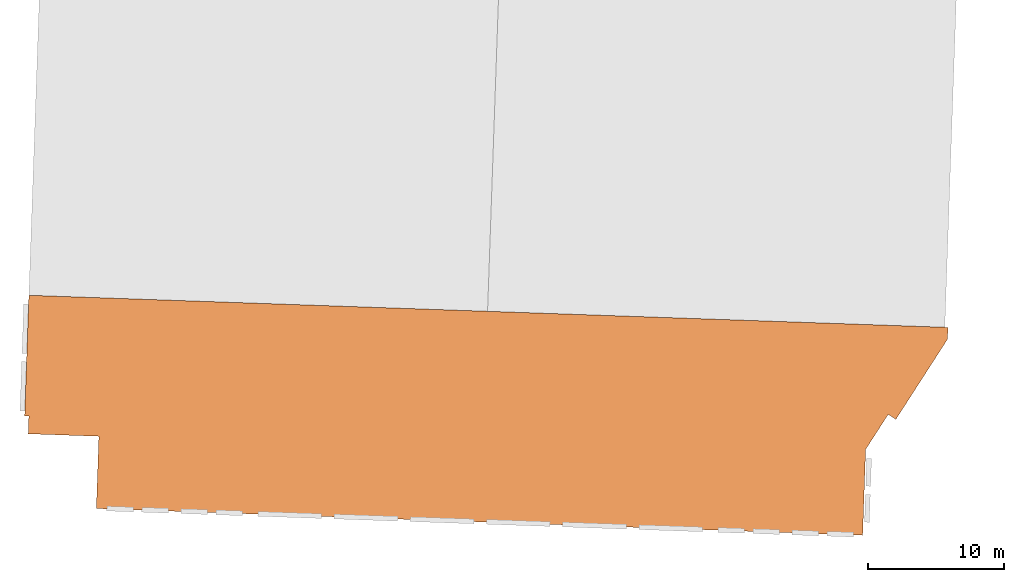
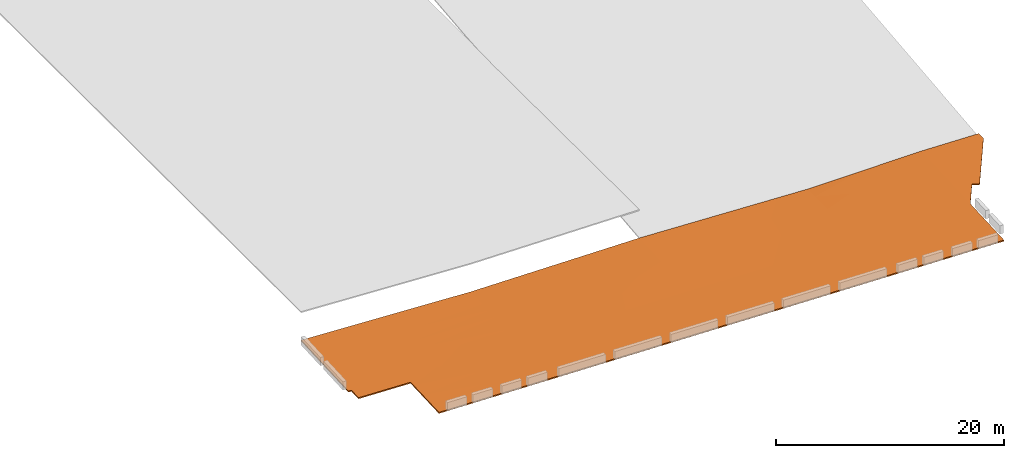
# One storey, part 6 of 7: 1 proxy.
"""IFC2X3 building model written with IfcOpenShell, lengths in feet."""

from ifc_helpers import new_model, entity, si_unit, converted_unit, derived_unit, direction, frame, origin, place, context, subcontext, project, spatial, faceted_brep, source, transform, mapped, material, type_object, type_shapes, element, save


model = new_model("IFC2X3")

# Units and contexts
model_context = context("Model", 3, precision=0.0001, world=origin(), true_north=direction((0.999390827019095, 0.0348994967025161)))
body_context = subcontext(model_context, "Body", "Model", "MODEL_VIEW")
ifc_project = project(units=[converted_unit("LENGTHUNIT", "FOOT", entity("IfcRatioMeasure", 0.3048), si_unit("LENGTHUNIT", "METRE"), dimensions=[1, 0, 0, 0, 0, 0, 0]), converted_unit("AREAUNIT", "SQUARE FOOT", entity("IfcRatioMeasure", 0.09290304), si_unit("AREAUNIT", "SQUARE_METRE"), dimensions=[2, 0, 0, 0, 0, 0, 0]), converted_unit("VOLUMEUNIT", "CUBIC FOOT", entity("IfcRatioMeasure", 0.028316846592), si_unit("VOLUMEUNIT", "CUBIC_METRE"), dimensions=[3, 0, 0, 0, 0, 0, 0]), converted_unit("PLANEANGLEUNIT", "DEGREE", entity("IfcRatioMeasure", 0.0174532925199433), si_unit("PLANEANGLEUNIT", "RADIAN"), dimensions=[0, 0, 0, 0, 0, 0, 0]), si_unit("MASSUNIT", "GRAM", prefix="KILO"), si_unit("TIMEUNIT", "SECOND"), si_unit("FREQUENCYUNIT", "HERTZ"), si_unit("THERMODYNAMICTEMPERATUREUNIT", "DEGREE_CELSIUS"), derived_unit("THERMALTRANSMITTANCEUNIT", [(si_unit("MASSUNIT", "GRAM", prefix="KILO"), 1), (si_unit("THERMODYNAMICTEMPERATUREUNIT", "KELVIN"), -1), (si_unit("TIMEUNIT", "SECOND"), -3)]), derived_unit("VOLUMETRICFLOWRATEUNIT", [(si_unit("LENGTHUNIT", "METRE"), 3), (si_unit("TIMEUNIT", "SECOND"), -1)]), si_unit("ELECTRICCURRENTUNIT", "AMPERE"), si_unit("ELECTRICVOLTAGEUNIT", "VOLT"), si_unit("POWERUNIT", "WATT"), si_unit("FORCEUNIT", "NEWTON"), si_unit("ILLUMINANCEUNIT", "LUX"), si_unit("LUMINOUSFLUXUNIT", "LUMEN"), si_unit("LUMINOUSINTENSITYUNIT", "CANDELA"), derived_unit("USERDEFINED", [(si_unit("MASSUNIT", "GRAM", prefix="KILO"), -1), (si_unit("LENGTHUNIT", "METRE"), -2), (si_unit("TIMEUNIT", "SECOND"), 3), (si_unit("LUMINOUSFLUXUNIT", "LUMEN"), 1)]), derived_unit("LINEARVELOCITYUNIT", [(si_unit("LENGTHUNIT", "METRE"), 1), (si_unit("TIMEUNIT", "SECOND"), -1)]), si_unit("PRESSUREUNIT", "PASCAL"), derived_unit("USERDEFINED", [(si_unit("LENGTHUNIT", "METRE"), -2), (si_unit("MASSUNIT", "GRAM", prefix="KILO"), 1), (si_unit("TIMEUNIT", "SECOND"), -2)])], contexts=[model_context])

# Site, building, storey
site_placement = place(None, frame((892.518771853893, 322.38689265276, 0.00393700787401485), z_axis=(0.0, 0.0, 1.0), x_axis=(0.0348994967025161, 0.999390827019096, 0.0)))
site = spatial("IfcSite", under=ifc_project, at=site_placement, Name="Default", CompositionType="ELEMENT")
building_placement = place(site_placement, origin())
building = spatial("IfcBuilding", under=site, at=building_placement, CompositionType="ELEMENT")
storey_placement = place(building_placement, frame((0.0, 0.0, 567.0)))
storey = spatial("IfcBuildingStorey", under=building, at=storey_placement, Name="Existing Garage - 2nd Level", CompositionType="ELEMENT", Elevation=567.0)

# Proxy
ifc_material = material(Name="Conc Slab")
building_element_proxy_type = type_object("IfcBuildingElementProxyType", Name="URMC Exist Garage A1-G4 1st Floor", PredefinedType="NOTDEFINED", material=ifc_material)
shared_shape = source(origin(), body_context, "Body", "Brep", [
    faceted_brep([(-20.0, -55.0, -0.41666666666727), (-10.0, -55.0, -0.651666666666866), (-5.0, -55.0, -0.769166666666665), (0.0, -55.0, -0.886666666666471), (7.5000000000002, -55.0, -1.06166666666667), (15.0, -55.0, -1.23666666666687), (22.1905010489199, -55.0, -1.40444502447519), (26.09525052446, -55.0, -1.49555584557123), (30.0, -55.0, -1.58666666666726), (30.0, -55.0, -1.1700000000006), (22.8094989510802, -55.0, -1.00222164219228), (18.9047494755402, -55.0, -0.911110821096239), (15.0, -55.0, -0.8200000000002), (7.5000000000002, -55.0, -0.645000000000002), (0.0, -55.0, -0.469999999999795), (-10.0, -55.0, -0.235000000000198), (-13.9877755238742, -55.0, -0.141287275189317), (-20.0, -55.0, 0.0), (-20.6666666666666, -55.0, 0.0), (-20.6666666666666, -55.0, -0.416666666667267), (30.0, 0.333333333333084, -0.416666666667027), (22.8094991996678, 0.333333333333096, -0.416666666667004), (18.904749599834, 0.333333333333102, -0.416666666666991), (15.0, 0.333333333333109, -0.416666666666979), (8.80986514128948, 0.333333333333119, -0.416666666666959), (4.90493257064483, 0.333333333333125, -0.416666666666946), (1.0, 0.333333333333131, -0.416666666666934), (1.0, 0.333333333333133, 0.0), (4.90493259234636, 0.333333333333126, 0.0), (8.80986518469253, 0.33333333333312, 0.0), (15.0, 0.33333333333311, 0.0), (22.1905008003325, 0.333333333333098, 0.0), (26.0952504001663, 0.333333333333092, 0.0), (30.0, 0.333333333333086, 0.0), (-20.6666666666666, -17.6666666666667, 0.0), (-20.6666666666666, -17.6666666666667, -0.416666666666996), (-20.0, -17.6666666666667, -0.416666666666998), (-20.0, -34.3004878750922, -0.416666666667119), (-12.5740740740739, -17.6666666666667, -0.473434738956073), (-10.7175925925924, -17.6666666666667, -0.487626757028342), (-8.86111111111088, -17.6666666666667, -0.501818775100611), (-11.6458347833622, -36.5226943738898, -0.547431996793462), (-16.2870370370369, -17.6666666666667, -0.445050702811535), (-14.4305555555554, -17.6666666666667, -0.459242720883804), (-3.29166666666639, -17.6666666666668, -0.544394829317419), (0.0, -14.250000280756, -0.540537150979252), (0.0, -15.0715290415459, -0.547515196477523), (0.0, -27.8333333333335, -0.6559136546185), (-3.29166666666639, -13.888888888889, -0.517587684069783), (-3.29166666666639, -12.0, -0.504184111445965), (-3.29166666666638, -10.1111111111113, -0.490780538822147), (-3.29166666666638, -8.22222222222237, -0.477376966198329), (-3.29166666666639, -15.7777777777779, -0.530991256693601), (-5.14814814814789, -17.6666666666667, -0.530202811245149), (-5.59903228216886, -34.4748037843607, -0.629555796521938), (-7.00462962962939, -17.6666666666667, -0.51601079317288), (-18.1435185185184, -17.6666666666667, -0.430858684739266), (0.0, -29.476391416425, -0.669869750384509), (-3.29166666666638, -4.44444444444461, -0.450569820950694), (-3.29166666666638, -2.55555555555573, -0.437166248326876), (-3.29166666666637, -0.666666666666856, -0.423762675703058), (-2.92592592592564, -0.666666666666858, -0.423918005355), (-2.56018518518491, -0.666666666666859, -0.424073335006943), (-2.19444444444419, -0.66666666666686, -0.424228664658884), (-1.82870370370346, -0.666666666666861, -0.424383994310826), (-1.46296296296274, -0.666666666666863, -0.424539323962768), (-1.09722222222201, -0.666666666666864, -0.42469465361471), (-0.731481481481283, -0.666666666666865, -0.424849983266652), (-3.29166666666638, -6.33333333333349, -0.463973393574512), (-0.365740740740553, -0.666666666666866, -0.425005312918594), (0.0, -0.666666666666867, -0.425160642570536), (-0.365740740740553, -0.666666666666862, -0.00833864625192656), (-0.731481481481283, -0.666666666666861, -0.00818331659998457), (0.0, -14.2500000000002, -0.12387048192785), (0.0, -0.666666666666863, -0.00849397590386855), (-3.29166666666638, -8.22222222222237, -0.0607102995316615), (-3.29166666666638, -6.33333333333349, -0.0473067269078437), (-1.09722222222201, -0.66666666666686, -0.00802798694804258), (-1.46296296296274, -0.666666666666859, -0.00787265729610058), (-1.82870370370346, -0.666666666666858, -0.0077173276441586), (-2.19444444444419, -0.666666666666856, -0.00756199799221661), (-2.56018518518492, -0.666666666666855, -0.00740666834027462), (-2.92592592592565, -0.666666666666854, -0.00725133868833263), (-3.29166666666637, -0.666666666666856, -0.00709600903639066), (-3.29166666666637, -2.55555555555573, -0.0204995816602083), (-3.29166666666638, -4.44444444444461, -0.033903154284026), (-13.9378433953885, -34.3833515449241, -0.0893812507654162), (-20.0, -34.3004875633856, 0.0), (-12.5740740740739, -17.6666666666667, -0.0567680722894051), (-14.4305555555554, -17.6666666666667, -0.042576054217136), (-16.2870370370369, -17.6666666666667, -0.0283840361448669), (-10.7175925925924, -17.6666666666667, -0.0709600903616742), (-3.29166666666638, -10.1111111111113, -0.0741138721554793), (-3.29166666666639, -12.0, -0.0875174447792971), (-3.29166666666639, -13.888888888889, -0.100921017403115), (-3.29166666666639, -15.7777777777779, -0.114324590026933), (-3.2916666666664, -17.6666666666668, -0.127728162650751), (-7.93286850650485, -36.6830543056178, -0.189705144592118), (0.0, -29.4763908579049, -0.253203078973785), (0.0, -27.8333333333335, -0.239246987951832), (-5.14814814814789, -17.6666666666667, -0.113536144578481), (0.0, -15.0715287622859, -0.130848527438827), (-7.00462962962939, -17.6666666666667, -0.0993441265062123), (-8.86111111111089, -17.6666666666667, -0.0851521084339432), (-18.1435185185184, -17.6666666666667, -0.0141920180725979), (-20.0, -17.6666666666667, 0.0), (0.250000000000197, -0.666666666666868, -0.00859939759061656), (0.500000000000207, -0.666666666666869, -0.0087048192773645), (0.750000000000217, -0.66666666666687, -0.00881024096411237), (1.0, -0.66666666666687, -0.00891566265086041), (1.0, -0.66666666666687, -0.425582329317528), (0.750000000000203, -0.66666666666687, -0.42547690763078), (0.500000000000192, -0.666666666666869, -0.425371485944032), (0.250000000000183, -0.666666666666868, -0.425266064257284), (1.0, -0.166666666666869, -0.421124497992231), (1.0, -0.41666666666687, -0.42335341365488), (1.0, -0.416666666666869, -0.00668674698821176), (1.0, -0.166666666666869, -0.0044578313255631), (1.0, 0.0833333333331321, -0.00222891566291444), (1.0, 0.0833333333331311, -0.418895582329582), (11.1962408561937, -15.6577053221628, -0.627992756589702), (10.7739407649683, -31.7992304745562, -0.83558545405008), (15.0, -27.3333333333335, -0.826666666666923), (15.0, -40.5958125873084, -1.02320702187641), (6.85739956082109, -24.4344512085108, -0.698664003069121), (7.21404979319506, -39.7071127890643, -0.878575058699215), (15.0, -26.1916251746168, -0.809747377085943), (20.251104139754, -19.1054514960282, -0.747779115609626), (25.1652703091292, -15.8962002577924, -0.726745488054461), (30.0, -14.0708535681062, -0.721237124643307), (30.0, -28.4750404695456, -1.02580758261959), (24.1428761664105, -33.9154324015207, -1.0562523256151), (19.0029258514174, -39.2111456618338, -1.06943757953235), (30.0, -26.1916251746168, -0.560859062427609), (30.0, -40.5958125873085, -0.865429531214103), (24.7488958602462, -19.1054514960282, -0.367981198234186), (19.834729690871, -15.8962002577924, -0.273597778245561), (15.0, -14.0708535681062, -0.213459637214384), (15.0, -27.3333333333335, -0.410000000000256), (15.0, -28.4750404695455, -0.426919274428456), (20.8571238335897, -33.9154324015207, -0.592132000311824), (25.9970741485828, -39.2111456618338, -0.769401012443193), (7.21404852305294, -39.7071122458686, -0.461908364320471), (6.85739830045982, -24.4344495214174, -0.281997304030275), (11.1962404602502, -15.6577081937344, -0.211326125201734), (10.773940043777, -31.7992331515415, -0.418918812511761)], [[[0, 1, 2, 3, 4, 5, 6, 7, 8, 9, 10, 11, 12, 13, 14, 15, 16, 17, 18, 19]], [[20, 21, 22, 23, 24, 25, 26, 27, 28, 29, 30, 31, 32, 33]], [[18, 34, 35, 19]], [[19, 35, 36, 37, 0]], [[38, 39, 40, 41, 42, 43]], [[44, 45, 46, 47]], [[48, 49, 50, 51, 45, 44, 52]], [[53, 44, 54, 40, 55]], [[0, 37, 41]], [[37, 36, 56, 42]], [[41, 54, 1]], [[1, 54, 3, 2]], [[54, 47, 57, 3]], [[41, 37, 42]], [[0, 41, 1]], [[40, 54, 41]], [[44, 47, 54]], [[58, 59, 60, 61, 62, 63, 64, 65, 66, 67, 51, 68]], [[69, 70, 45, 67]], [[67, 45, 51]], [[71, 72, 73, 74]], [[75, 73, 72]], [[76, 75, 72, 77, 78, 79, 80, 81, 82, 83, 84, 85]], [[16, 86, 87]], [[88, 89, 90, 86, 91]], [[92, 93, 94, 95, 96, 73, 75]], [[97, 14, 98, 99]], [[86, 90, 87]], [[100, 99, 101, 73, 96]], [[100, 102, 103, 91, 97]], [[100, 97, 99]], [[86, 97, 91]], [[104, 105, 87, 90]], [[87, 17, 16]], [[86, 15, 97]], [[15, 86, 16]], [[14, 97, 15]], [[18, 17, 87, 105, 34]], [[93, 92, 75, 76, 85, 84, 83, 60, 59, 58, 68, 51, 50, 49, 48, 52, 44, 96, 95, 94]], [[62, 61, 60, 83, 82, 81, 80, 79, 78, 77, 72, 71, 74, 106, 107, 108, 109, 110, 111, 112, 113, 70, 69, 67, 66, 65, 64, 63]], [[114, 115, 110, 109, 116, 117, 118, 27, 26, 119]], [[36, 35, 34, 105, 104, 90, 89, 88, 91, 103, 102, 100, 96, 44, 53, 55, 40, 39, 38, 43, 42, 56]], [[23, 120, 24]], [[121, 122, 123, 5]], [[4, 121, 5]], [[110, 46, 45, 70, 113, 112, 111]], [[24, 120, 124]], [[110, 25, 46]], [[124, 46, 25]], [[125, 124, 121]], [[120, 23, 126, 122]], [[119, 26, 25, 110, 115, 114]], [[124, 25, 24]], [[57, 124, 125]], [[124, 57, 47, 46]], [[125, 3, 57]], [[121, 120, 122]], [[121, 124, 120]], [[121, 4, 125]], [[125, 4, 3]], [[127, 23, 22, 21]], [[128, 20, 129, 130]], [[6, 131, 7]], [[6, 132, 131]], [[132, 5, 123, 122, 126]], [[127, 128, 131]], [[130, 7, 131]], [[130, 8, 7]], [[131, 132, 127]], [[5, 132, 6]], [[127, 132, 126]], [[128, 127, 21]], [[20, 128, 21]], [[130, 131, 128]], [[23, 127, 126]], [[9, 8, 130, 129, 20, 33, 133, 134]], [[135, 33, 32, 31]], [[136, 30, 137, 138, 139]], [[10, 140, 11]], [[10, 141, 140]], [[141, 9, 134, 133]], [[135, 136, 140]], [[139, 11, 140]], [[139, 12, 11]], [[140, 141, 135]], [[9, 141, 10]], [[135, 141, 133]], [[136, 135, 31]], [[30, 136, 31]], [[139, 140, 136]], [[33, 135, 133]], [[142, 98, 14]], [[108, 107, 106, 74, 73, 101, 109]], [[143, 28, 101]], [[138, 144, 145]], [[117, 116, 109, 28, 27, 118]], [[29, 28, 143]], [[12, 145, 13]], [[145, 144, 143]], [[144, 138, 137, 30]], [[142, 14, 13]], [[144, 29, 143]], [[109, 101, 28]], [[143, 101, 99, 98]], [[145, 12, 139, 138]], [[143, 142, 145]], [[29, 144, 30]], [[98, 142, 143]], [[13, 145, 142]]]),
    faceted_brep([(30.0, -202.0, 0.0), (0.0, -202.0, 0.0), (8.58968833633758, -207.120278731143, 0.0), (7.46506598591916, -209.006925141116, 0.0), (27.1650390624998, -220.75, 0.0), (30.0, -220.75, 0.0), (30.0, -202.0, -0.416666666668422), (30.0, -220.75, -0.416666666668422), (27.1650390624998, -220.75, -0.416666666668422), (7.46506598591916, -209.006925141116, -0.416666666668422), (8.58968833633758, -207.120278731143, -0.416666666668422), (0.0, -202.0, -0.416666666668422)], [[[0, 1, 2, 3, 4, 5]], [[6, 7, 8, 9, 10, 11]], [[1, 0, 6, 11]], [[2, 1, 11, 10]], [[3, 2, 10, 9]], [[4, 3, 9, 8]], [[5, 4, 8, 7]], [[0, 5, 7, 6]]]),
    faceted_brep([(-20.6666666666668, -165.0, 0.0), (-20.0, -165.0, 0.0), (-13.6761632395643, -165.0, -0.148610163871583), (-7.35232647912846, -165.0, -0.297220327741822), (0.0, -165.0, -0.47000000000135), (9.0037052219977, -165.0, -0.680086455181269), (18.0074104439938, -165.0, -0.890172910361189), (25.4981473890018, -165.0, -1.06495677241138), (30.0, -165.0, -1.17000000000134), (30.0, -165.0, -1.58666666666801), (20.9962947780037, -165.0, -1.37658021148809), (11.9925895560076, -165.0, -1.16649375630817), (4.50185261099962, -165.0, -0.991709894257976), (0.0, -165.0, -0.886666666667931), (-6.32383676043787, -165.0, -0.738056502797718), (-12.6476735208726, -165.0, -0.589446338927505), (-20.0, -165.0, -0.416666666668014), (-20.6666666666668, -165.0, -0.416666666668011), (-20.6666666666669, -202.0, -0.41666666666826), (-20.0, -202.0, -0.416666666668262), (-12.6476733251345, -202.0, -0.416666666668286), (-6.32383666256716, -202.0, -0.416666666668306), (0.0, -202.0, -0.416666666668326), (9.00370527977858, -202.0, -0.416666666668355), (15.0, -202.0, -0.416666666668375), (20.9962947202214, -202.0, -0.416666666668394), (30.0, -202.0, -0.416666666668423), (30.0, -202.0, 0.0), (20.9962947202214, -202.0, 0.0), (15.0, -202.0, 0.0), (9.00370527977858, -202.0, 0.0), (0.0, -202.0, 0.0), (-7.35232667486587, -202.0, 0.0), (-13.676163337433, -202.0, 0.0), (-20.0, -202.0, 0.0), (-20.6666666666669, -202.0, 0.0), (-20.0, -183.5, 0.0), (0.0, -188.398195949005, -0.172779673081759), (-9.99999899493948, -183.499998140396, -0.117500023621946), (0.0, -178.601803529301, -0.297220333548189), (0.0, -183.5, -0.235000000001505), (0.0, -174.25, -0.352500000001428), (0.0, -181.656853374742, -0.675079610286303), (0.0, -183.5, -0.651666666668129), (-20.0, -178.601804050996, -0.416666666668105), (-20.0, -188.398195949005, -0.416666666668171), (-10.0000010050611, -183.499998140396, -0.53416666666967), (0.0, -191.828426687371, -0.545873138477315), (17.9981488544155, -183.915731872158, -0.434978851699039), (21.7527798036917, -174.464150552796, -0.727515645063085), (16.3929501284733, -174.455166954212, -0.634649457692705), (5.45135066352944, -176.072640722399, -0.41848031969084), (24.1185436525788, -184.958768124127, -0.47566500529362), (30.0, -181.656853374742, -0.643283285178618), (10.9233067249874, -174.475221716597, -0.539245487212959), (30.0, -191.828426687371, -0.321641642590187), (8.99746617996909, -183.946109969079, -0.331772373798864), (30.0, -183.5, -1.00166666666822), (30.0, -174.25, -1.29416666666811), (12.0018511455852, -183.915731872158, -0.783260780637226), (8.24722019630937, -174.464150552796, -0.909658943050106), (13.6070498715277, -174.455166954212, -1.0029233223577), (24.5486493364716, -176.072640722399, -1.14739902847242), (5.88145634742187, -184.958768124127, -0.696342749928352), (19.0766932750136, -174.475221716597, -1.09743837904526), (21.0025338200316, -183.946109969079, -0.885120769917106)], [[[0, 1, 2, 3, 4, 5, 6, 7, 8, 9, 10, 11, 12, 13, 14, 15, 16, 17]], [[18, 19, 20, 21, 22, 23, 24, 25, 26, 27, 28, 29, 30, 31, 32, 33, 34, 35]], [[2, 1, 36]], [[32, 31, 37]], [[38, 39, 3]], [[38, 32, 37]], [[38, 37, 40, 39]], [[36, 33, 38]], [[3, 39, 41, 4]], [[2, 36, 38]], [[38, 3, 2]], [[38, 33, 32]], [[36, 1, 0, 35, 34, 33]], [[14, 13, 42, 43]], [[20, 19, 18, 17, 16, 44, 45]], [[46, 44, 15]], [[46, 20, 45]], [[44, 46, 45]], [[43, 21, 46]], [[44, 16, 15]], [[14, 43, 46]], [[46, 15, 14]], [[46, 21, 20]], [[21, 43, 47, 23, 22]], [[17, 18, 35, 0]], [[28, 48, 29]], [[49, 6, 50]], [[51, 4, 41, 39, 40]], [[49, 52, 53]], [[6, 49, 7]], [[54, 50, 6]], [[28, 55, 52]], [[50, 54, 48]], [[31, 30, 29, 56]], [[56, 29, 48]], [[50, 48, 49]], [[53, 8, 7]], [[52, 49, 48]], [[53, 7, 49]], [[48, 28, 52]], [[5, 54, 6]], [[55, 28, 27]], [[55, 53, 52]], [[56, 54, 51]], [[56, 40, 37, 31]], [[51, 40, 56]], [[48, 54, 56]], [[51, 5, 4]], [[5, 51, 54]], [[26, 57, 58, 9, 8, 53, 55, 27]], [[23, 59, 24]], [[60, 11, 61]], [[62, 9, 58, 57]], [[60, 63, 42]], [[11, 60, 12]], [[64, 61, 11]], [[23, 47, 63]], [[61, 64, 59]], [[26, 25, 24, 65]], [[65, 24, 59]], [[61, 59, 60]], [[42, 13, 12]], [[63, 60, 59]], [[42, 12, 60]], [[59, 23, 63]], [[10, 64, 11]], [[63, 47, 43, 42]], [[65, 64, 62]], [[26, 65, 57]], [[62, 57, 65]], [[59, 64, 65]], [[62, 10, 9]], [[10, 62, 64]]]),
    faceted_brep([(-20.6666666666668, -165.0, 0.0), (-20.6666666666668, -165.0, -0.416666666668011), (-20.0, -165.0, -0.416666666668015), (0.0, -165.0, -0.886666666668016), (15.0, -165.0, -1.23666666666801), (30.0, -165.0, -1.58666666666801), (30.0, -165.0, -1.17000000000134), (15.0, -165.0, -0.820000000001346), (0.0, -165.0, -0.470000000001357), (-20.0, -165.0, 0.0), (-20.6666666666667, -110.0, -0.416666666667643), (-20.6666666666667, -110.0, 0.0), (-20.0, -110.0, 0.0), (0.0, -110.0, -0.470000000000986), (13.3825266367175, -110.0, -0.407548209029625), (21.6912633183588, -110.0, -0.368774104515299), (30.0, -110.0, -0.330000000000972), (30.0, -110.0, -0.746666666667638), (16.6174733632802, -110.0, -0.809118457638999), (8.30873668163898, -110.0, -0.847892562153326), (0.0, -110.0, -0.886666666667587), (-20.0, -110.0, -0.416666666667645), (0.0, -120.155122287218, -0.88666666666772), (0.0, -130.310244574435, -0.886666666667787), (0.0, -144.689755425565, -0.886666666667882), (0.0, -154.844877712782, -0.886666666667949), (0.0, -151.25, -0.470000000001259), (0.0, -137.5, -0.470000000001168), (0.0, -120.1551222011, -0.470000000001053), (17.2873447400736, -147.002653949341, -1.13164646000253), (30.0, -151.25, -1.37666666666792), (30.0, -137.5, -1.16666666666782), (16.3240091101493, -128.827558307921, -0.966952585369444), (30.0, -120.1551222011, -0.901763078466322), (13.2726015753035, -119.339312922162, -0.887833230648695), (8.02165536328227, -127.260649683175, -0.919720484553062), (8.64423343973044, -137.500002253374, -0.967346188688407), (21.6843579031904, -118.27528224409, -0.876826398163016), (8.41142000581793, -148.439377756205, -1.01201761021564), (30.0, -120.155122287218, -0.485096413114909), (30.0, -130.310244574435, -0.640192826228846), (30.0, -144.689755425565, -0.859807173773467), (30.0, -154.844877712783, -1.0149035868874), (12.7126552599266, -147.002653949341, -0.650151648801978), (13.6759908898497, -128.827558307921, -0.537262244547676), (16.7273984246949, -119.339312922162, -0.471470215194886), (21.9783446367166, -127.260649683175, -0.560563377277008), (21.3557665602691, -137.500002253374, -0.669320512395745), (8.31564209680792, -118.27528224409, -0.466226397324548), (21.5885799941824, -148.439377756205, -0.791723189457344)], [[[0, 1, 2, 3, 4, 5, 6, 7, 8, 9]], [[10, 11, 12, 13, 14, 15, 16, 17, 18, 19, 20, 21]], [[0, 11, 10, 1]], [[1, 10, 21, 2]], [[2, 21, 20, 22, 23, 24, 25, 3]], [[9, 8, 26, 27, 28, 13, 12]], [[9, 12, 11, 0]], [[4, 29, 30]], [[31, 32, 33]], [[34, 35, 22]], [[30, 5, 4]], [[35, 36, 23]], [[17, 33, 37]], [[32, 34, 37]], [[32, 36, 35]], [[29, 32, 31]], [[23, 36, 24]], [[4, 25, 38]], [[36, 38, 24]], [[32, 29, 36]], [[38, 36, 29]], [[29, 4, 38]], [[22, 20, 19]], [[25, 4, 3]], [[25, 24, 38]], [[19, 18, 34]], [[35, 23, 22]], [[35, 34, 32]], [[19, 34, 22]], [[37, 34, 18]], [[17, 37, 18]], [[32, 37, 33]], [[29, 31, 30]], [[6, 5, 30, 31, 33, 17, 16, 39, 40, 41, 42]], [[7, 43, 26]], [[27, 44, 28]], [[45, 46, 39]], [[26, 8, 7]], [[46, 47, 40]], [[13, 28, 48]], [[44, 45, 48]], [[44, 47, 46]], [[43, 44, 27]], [[40, 47, 41]], [[7, 42, 49]], [[47, 49, 41]], [[44, 43, 47]], [[49, 47, 43]], [[43, 7, 49]], [[39, 16, 15]], [[42, 7, 6]], [[42, 41, 49]], [[15, 14, 45]], [[46, 40, 39]], [[46, 45, 44]], [[15, 45, 39]], [[48, 45, 14]], [[13, 48, 14]], [[44, 48, 28]], [[43, 27, 26]]]),
    faceted_brep([(-20.6666666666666, -55.0, 0.0), (-20.0, -55.0, 0.0), (0.0, -55.0, -0.469999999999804), (15.0, -55.0, -0.820000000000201), (30.0, -55.0, -1.1700000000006), (30.0, -55.0, -1.58666666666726), (15.0, -55.0, -1.23666666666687), (0.0, -55.0, -0.886666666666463), (-20.0, -55.0, -0.416666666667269), (-20.6666666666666, -55.0, -0.416666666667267), (-20.6666666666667, -110.0, -0.416666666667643), (-20.0, -110.0, -0.416666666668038), (0.0, -110.0, -0.886666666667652), (13.3825266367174, -110.0, -0.824214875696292), (21.6912633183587, -110.0, -0.785440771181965), (30.0, -110.0, -0.746666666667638), (30.0, -110.0, -0.330000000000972), (16.6174733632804, -110.0, -0.392451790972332), (8.30873668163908, -110.0, -0.431225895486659), (0.0, -110.0, -0.47000000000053), (-20.0, -110.0, 0.0), (-20.6666666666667, -110.0, 0.0), (0.0, -99.8448777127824, -0.470000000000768), (0.0, -89.6897554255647, -0.47000000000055), (0.0, -75.3102445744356, -0.47000000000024), (0.0, -65.1551222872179, -0.470000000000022), (0.0, -68.7500000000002, -0.886666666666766), (0.0, -82.5000000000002, -0.886666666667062), (0.0, -99.8448777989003, -0.886666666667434), (17.2873447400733, -72.9973460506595, -0.714979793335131), (30.0, -68.7500000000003, -0.960000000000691), (30.0, -82.5000000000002, -0.750000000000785), (16.324009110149, -91.1724416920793, -0.550285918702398), (30.0, -99.8448777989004, -0.485096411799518), (13.2726015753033, -100.660687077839, -0.471166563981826), (8.02165536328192, -92.7393503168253, -0.503053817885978), (8.64423343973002, -82.4999977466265, -0.550679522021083), (21.6843579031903, -101.72471775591, -0.460159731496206), (8.41142000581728, -71.5606222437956, -0.595350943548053), (30.0, -99.8448777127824, -0.90176307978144), (30.0, -89.6897554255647, -1.05685949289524), (30.0, -75.3102445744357, -1.27647384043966), (30.0, -65.155122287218, -1.43157025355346), (12.7126552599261, -72.9973460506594, -1.06681831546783), (13.6759908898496, -91.1724416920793, -0.95392891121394), (16.7273984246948, -100.660687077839, -0.888136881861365), (21.9783446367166, -92.7393503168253, -0.977230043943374), (21.355766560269, -82.4999977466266, -1.08598717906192), (8.3156420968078, -101.72471775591, -0.882893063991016), (21.5885799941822, -71.5606222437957, -1.20838985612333)], [[[0, 1, 2, 3, 4, 5, 6, 7, 8, 9]], [[10, 11, 12, 13, 14, 15, 16, 17, 18, 19, 20, 21]], [[0, 21, 20, 1]], [[1, 20, 19, 22, 23, 24, 25, 2]], [[8, 7, 26, 27, 28, 12, 11]], [[8, 11, 10, 9]], [[9, 10, 21, 0]], [[3, 29, 30]], [[31, 32, 33]], [[34, 35, 22]], [[30, 4, 3]], [[35, 36, 23]], [[16, 33, 37]], [[32, 34, 37]], [[32, 36, 35]], [[29, 32, 31]], [[23, 36, 24]], [[3, 25, 38]], [[36, 38, 24]], [[32, 29, 36]], [[38, 36, 29]], [[29, 3, 38]], [[22, 19, 18]], [[25, 3, 2]], [[25, 24, 38]], [[18, 17, 34]], [[35, 23, 22]], [[35, 34, 32]], [[18, 34, 22]], [[37, 34, 17]], [[16, 37, 17]], [[32, 37, 33]], [[29, 31, 30]], [[15, 39, 40, 41, 42, 5, 4, 30, 31, 33, 16]], [[6, 43, 26]], [[27, 44, 28]], [[45, 46, 39]], [[26, 7, 6]], [[46, 47, 40]], [[12, 28, 48]], [[44, 45, 48]], [[44, 47, 46]], [[43, 44, 27]], [[40, 47, 41]], [[6, 42, 49]], [[47, 49, 41]], [[44, 43, 47]], [[49, 47, 43]], [[43, 6, 49]], [[39, 15, 14]], [[42, 6, 5]], [[42, 41, 49]], [[14, 13, 45]], [[46, 40, 39]], [[46, 45, 44]], [[14, 45, 39]], [[48, 45, 13]], [[12, 48, 13]], [[44, 48, 28]], [[43, 27, 26]]]),
])
type_shapes(building_element_proxy_type, [shared_shape])
proxy_placement = place(storey_placement, frame((-170.072745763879, 456.763953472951, 0.0)))
element("IfcBuildingElementProxy", 1, at=proxy_placement, inside=storey, type_object=building_element_proxy_type, material=ifc_material, Name="URMC Exist Garage A1-G4 1st Floor:URMC Exist Garage A1-G4 1st Floor", ObjectType="URMC Exist Garage A1-G4 1st Floor", context=body_context, shape_type="MappedRepresentation", body=[
    mapped(shared_shape, transform((0.0, 0.0, 0.0), scale=1.0)),
])

save(model, "model.ifc")
